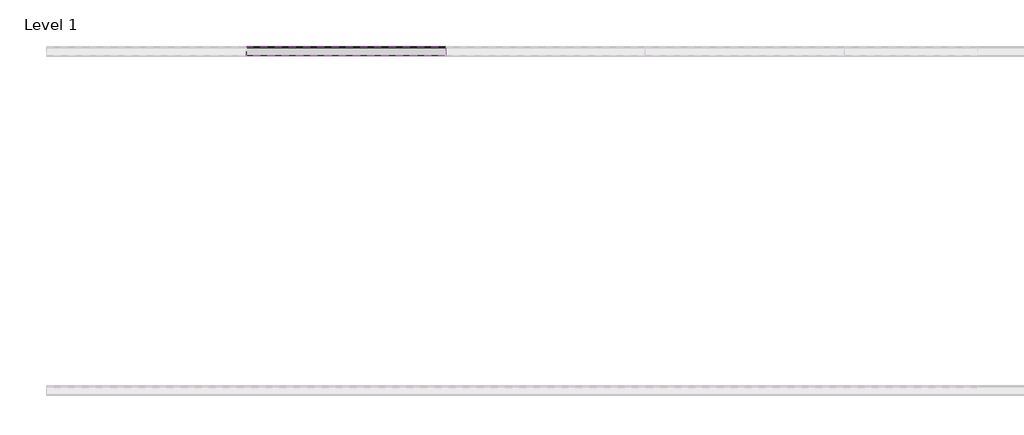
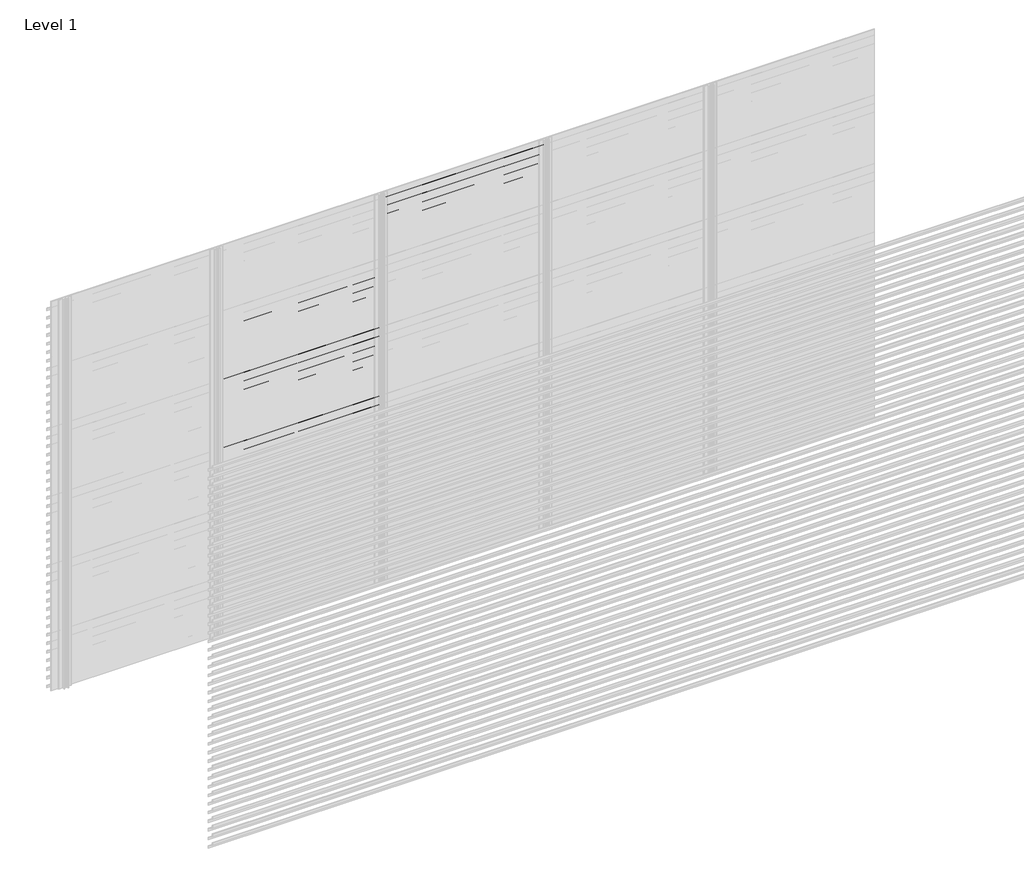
# One storey, part 21 of 540: 43 proxies.
"""IFC4 building model written with IfcOpenShell, lengths in millimetres."""

from ifc_helpers import new_model, si_unit, origin, place, context, project, spatial, faceted_brep, element, save

model = new_model("IFC4")

# Units and contexts
model_context = context("Model", 3, world=origin())
ifc_project = project(units=[si_unit("LENGTHUNIT", "METRE", prefix="MILLI")], contexts=[model_context])

# Site, building, storey
site = spatial("IfcSite", under=ifc_project)
building = spatial("IfcBuilding", under=site)
storey = spatial("IfcBuildingStorey", under=building, Name="Level 1", Elevation=0.0)

# Proxies
placement = place(None, origin())
element("IfcBuildingElementProxy", 1, Name="Wall Sweeps", at=placement, inside=storey, context=model_context, shape_type="Brep", body=[
    faceted_brep([(2866.6208097, 7042.0270068, 2319.5), (2866.6208097, 6988.2770068, 2357.0285629), (2866.6208097, 6988.2770068, 2376.0), (2866.6208097, 6987.0270068, 2376.0), (2866.6208097, 6987.0270068, 2356.3158044), (2866.6208097, 7040.7770068, 2318.7872415), (2866.6208097, 7040.7770068, 2300.2216933), (2866.6208097, 7042.0270068, 2299.5), (1666.6208097, 7042.0270068, 2319.5), (1666.6208097, 7042.0270068, 2299.5), (1666.6208097, 7040.7770068, 2300.2216933), (1666.6208097, 7040.7770068, 2318.7872415), (1666.6208097, 6987.0270068, 2356.3158044), (1666.6208097, 6987.0270068, 2376.0), (1666.6208097, 6988.2770068, 2376.0), (1666.6208097, 6988.2770068, 2357.0285629)], [[[0, 1, 2, 3, 4, 5, 6, 7]], [[8, 9, 10, 11, 12, 13, 14, 15]], [[1, 0, 8, 15]], [[2, 1, 15, 14]], [[4, 3, 13, 12]], [[6, 5, 11, 10]], [[7, 6, 10, 9]], [[0, 7, 9, 8]], [[3, 2, 14, 13]], [[5, 4, 12, 11]]]),
])
element("IfcBuildingElementProxy", 2, Name="Wall Sweeps", at=placement, inside=storey, context=model_context, shape_type="Brep", body=[
    faceted_brep([(2866.6208097, 7042.0270068, 2253.5), (2866.6208097, 6988.2770068, 2291.0285629), (2866.6208097, 6988.2770068, 2310.0), (2866.6208097, 6987.0270068, 2310.0), (2866.6208097, 6987.0270068, 2290.3158044), (2866.6208097, 7040.7770068, 2252.7872415), (2866.6208097, 7040.7770068, 2234.2216933), (2866.6208097, 7042.0270068, 2233.5), (1666.6208097, 7042.0270068, 2253.5), (1666.6208097, 7042.0270068, 2233.5), (1666.6208097, 7040.7770068, 2234.2216933), (1666.6208097, 7040.7770068, 2252.7872415), (1666.6208097, 6987.0270068, 2290.3158044), (1666.6208097, 6987.0270068, 2310.0), (1666.6208097, 6988.2770068, 2310.0), (1666.6208097, 6988.2770068, 2291.0285629)], [[[0, 1, 2, 3, 4, 5, 6, 7]], [[8, 9, 10, 11, 12, 13, 14, 15]], [[1, 0, 8, 15]], [[2, 1, 15, 14]], [[4, 3, 13, 12]], [[6, 5, 11, 10]], [[7, 6, 10, 9]], [[0, 7, 9, 8]], [[3, 2, 14, 13]], [[5, 4, 12, 11]]]),
])
element("IfcBuildingElementProxy", 3, Name="Wall Sweeps", at=placement, inside=storey, context=model_context, shape_type="Brep", body=[
    faceted_brep([(2866.6208097, 7042.0270068, 2187.5), (2866.6208097, 6988.2770068, 2225.0285629), (2866.6208097, 6988.2770068, 2244.0), (2866.6208097, 6987.0270068, 2244.0), (2866.6208097, 6987.0270068, 2224.3158044), (2866.6208097, 7040.7770068, 2186.7872415), (2866.6208097, 7040.7770068, 2168.2216933), (2866.6208097, 7042.0270068, 2167.5), (1666.6208097, 7042.0270068, 2187.5), (1666.6208097, 7042.0270068, 2167.5), (1666.6208097, 7040.7770068, 2168.2216933), (1666.6208097, 7040.7770068, 2186.7872415), (1666.6208097, 6987.0270068, 2224.3158044), (1666.6208097, 6987.0270068, 2244.0), (1666.6208097, 6988.2770068, 2244.0), (1666.6208097, 6988.2770068, 2225.0285629)], [[[0, 1, 2, 3, 4, 5, 6, 7]], [[8, 9, 10, 11, 12, 13, 14, 15]], [[1, 0, 8, 15]], [[2, 1, 15, 14]], [[4, 3, 13, 12]], [[6, 5, 11, 10]], [[7, 6, 10, 9]], [[0, 7, 9, 8]], [[3, 2, 14, 13]], [[5, 4, 12, 11]]]),
])
element("IfcBuildingElementProxy", 4, Name="Wall Sweeps", at=placement, inside=storey, context=model_context, shape_type="Brep", body=[
    faceted_brep([(2866.6208097, 7042.0270068, 2121.5), (2866.6208097, 6988.2770068, 2159.0285629), (2866.6208097, 6988.2770068, 2178.0), (2866.6208097, 6987.0270068, 2178.0), (2866.6208097, 6987.0270068, 2158.3158044), (2866.6208097, 7040.7770068, 2120.7872415), (2866.6208097, 7040.7770068, 2102.2216933), (2866.6208097, 7042.0270068, 2101.5), (1666.6208097, 7042.0270068, 2121.5), (1666.6208097, 7042.0270068, 2101.5), (1666.6208097, 7040.7770068, 2102.2216933), (1666.6208097, 7040.7770068, 2120.7872415), (1666.6208097, 6987.0270068, 2158.3158044), (1666.6208097, 6987.0270068, 2178.0), (1666.6208097, 6988.2770068, 2178.0), (1666.6208097, 6988.2770068, 2159.0285629)], [[[0, 1, 2, 3, 4, 5, 6, 7]], [[8, 9, 10, 11, 12, 13, 14, 15]], [[1, 0, 8, 15]], [[2, 1, 15, 14]], [[4, 3, 13, 12]], [[6, 5, 11, 10]], [[7, 6, 10, 9]], [[0, 7, 9, 8]], [[3, 2, 14, 13]], [[5, 4, 12, 11]]]),
])
element("IfcBuildingElementProxy", 5, Name="Wall Sweeps", at=placement, inside=storey, context=model_context, shape_type="Brep", body=[
    faceted_brep([(2866.6208097, 7042.0270068, 2055.5), (2866.6208097, 6988.2770068, 2093.0285629), (2866.6208097, 6988.2770068, 2112.0), (2866.6208097, 6987.0270068, 2112.0), (2866.6208097, 6987.0270068, 2092.3158044), (2866.6208097, 7040.7770068, 2054.7872415), (2866.6208097, 7040.7770068, 2036.2216933), (2866.6208097, 7042.0270068, 2035.5), (1666.6208097, 7042.0270068, 2055.5), (1666.6208097, 7042.0270068, 2035.5), (1666.6208097, 7040.7770068, 2036.2216933), (1666.6208097, 7040.7770068, 2054.7872415), (1666.6208097, 6987.0270068, 2092.3158044), (1666.6208097, 6987.0270068, 2112.0), (1666.6208097, 6988.2770068, 2112.0), (1666.6208097, 6988.2770068, 2093.0285629)], [[[0, 1, 2, 3, 4, 5, 6, 7]], [[8, 9, 10, 11, 12, 13, 14, 15]], [[1, 0, 8, 15]], [[2, 1, 15, 14]], [[4, 3, 13, 12]], [[6, 5, 11, 10]], [[7, 6, 10, 9]], [[0, 7, 9, 8]], [[3, 2, 14, 13]], [[5, 4, 12, 11]]]),
])
element("IfcBuildingElementProxy", 6, Name="Wall Sweeps", at=placement, inside=storey, context=model_context, shape_type="Brep", body=[
    faceted_brep([(2866.6208097, 7042.0270068, 1989.5), (2866.6208097, 6988.2770068, 2027.0285629), (2866.6208097, 6988.2770068, 2046.0), (2866.6208097, 6987.0270068, 2046.0), (2866.6208097, 6987.0270068, 2026.3158044), (2866.6208097, 7040.7770068, 1988.7872415), (2866.6208097, 7040.7770068, 1970.2216933), (2866.6208097, 7042.0270068, 1969.5), (1666.6208097, 7042.0270068, 1989.5), (1666.6208097, 7042.0270068, 1969.5), (1666.6208097, 7040.7770068, 1970.2216933), (1666.6208097, 7040.7770068, 1988.7872415), (1666.6208097, 6987.0270068, 2026.3158044), (1666.6208097, 6987.0270068, 2046.0), (1666.6208097, 6988.2770068, 2046.0), (1666.6208097, 6988.2770068, 2027.0285629)], [[[0, 1, 2, 3, 4, 5, 6, 7]], [[8, 9, 10, 11, 12, 13, 14, 15]], [[1, 0, 8, 15]], [[2, 1, 15, 14]], [[4, 3, 13, 12]], [[6, 5, 11, 10]], [[7, 6, 10, 9]], [[0, 7, 9, 8]], [[3, 2, 14, 13]], [[5, 4, 12, 11]]]),
])
element("IfcBuildingElementProxy", 7, Name="Wall Sweeps", at=placement, inside=storey, context=model_context, shape_type="Brep", body=[
    faceted_brep([(2866.6208097, 7042.0270068, 1923.5), (2866.6208097, 6988.2770068, 1961.0285629), (2866.6208097, 6988.2770068, 1980.0), (2866.6208097, 6987.0270068, 1980.0), (2866.6208097, 6987.0270068, 1960.3158044), (2866.6208097, 7040.7770068, 1922.7872415), (2866.6208097, 7040.7770068, 1904.2216933), (2866.6208097, 7042.0270068, 1903.5), (1666.6208097, 7042.0270068, 1923.5), (1666.6208097, 7042.0270068, 1903.5), (1666.6208097, 7040.7770068, 1904.2216933), (1666.6208097, 7040.7770068, 1922.7872415), (1666.6208097, 6987.0270068, 1960.3158044), (1666.6208097, 6987.0270068, 1980.0), (1666.6208097, 6988.2770068, 1980.0), (1666.6208097, 6988.2770068, 1961.0285629)], [[[0, 1, 2, 3, 4, 5, 6, 7]], [[8, 9, 10, 11, 12, 13, 14, 15]], [[1, 0, 8, 15]], [[2, 1, 15, 14]], [[4, 3, 13, 12]], [[6, 5, 11, 10]], [[7, 6, 10, 9]], [[0, 7, 9, 8]], [[3, 2, 14, 13]], [[5, 4, 12, 11]]]),
])
element("IfcBuildingElementProxy", 8, Name="Wall Sweeps", at=placement, inside=storey, context=model_context, shape_type="Brep", body=[
    faceted_brep([(2866.6208097, 7042.0270068, 1857.5), (2866.6208097, 6988.2770068, 1895.0285629), (2866.6208097, 6988.2770068, 1914.0), (2866.6208097, 6987.0270068, 1914.0), (2866.6208097, 6987.0270068, 1894.3158044), (2866.6208097, 7040.7770068, 1856.7872415), (2866.6208097, 7040.7770068, 1838.2216933), (2866.6208097, 7042.0270068, 1837.5), (1666.6208097, 7042.0270068, 1857.5), (1666.6208097, 7042.0270068, 1837.5), (1666.6208097, 7040.7770068, 1838.2216933), (1666.6208097, 7040.7770068, 1856.7872415), (1666.6208097, 6987.0270068, 1894.3158044), (1666.6208097, 6987.0270068, 1914.0), (1666.6208097, 6988.2770068, 1914.0), (1666.6208097, 6988.2770068, 1895.0285629)], [[[0, 1, 2, 3, 4, 5, 6, 7]], [[8, 9, 10, 11, 12, 13, 14, 15]], [[1, 0, 8, 15]], [[2, 1, 15, 14]], [[4, 3, 13, 12]], [[6, 5, 11, 10]], [[7, 6, 10, 9]], [[0, 7, 9, 8]], [[3, 2, 14, 13]], [[5, 4, 12, 11]]]),
])
element("IfcBuildingElementProxy", 9, Name="Wall Sweeps", at=placement, inside=storey, context=model_context, shape_type="Brep", body=[
    faceted_brep([(2866.6208097, 7042.0270068, 1791.5), (2866.6208097, 6988.2770068, 1829.0285629), (2866.6208097, 6988.2770068, 1848.0), (2866.6208097, 6987.0270068, 1848.0), (2866.6208097, 6987.0270068, 1828.3158044), (2866.6208097, 7040.7770068, 1790.7872415), (2866.6208097, 7040.7770068, 1772.2216933), (2866.6208097, 7042.0270068, 1771.5), (1666.6208097, 7042.0270068, 1791.5), (1666.6208097, 7042.0270068, 1771.5), (1666.6208097, 7040.7770068, 1772.2216933), (1666.6208097, 7040.7770068, 1790.7872415), (1666.6208097, 6987.0270068, 1828.3158044), (1666.6208097, 6987.0270068, 1848.0), (1666.6208097, 6988.2770068, 1848.0), (1666.6208097, 6988.2770068, 1829.0285629)], [[[0, 1, 2, 3, 4, 5, 6, 7]], [[8, 9, 10, 11, 12, 13, 14, 15]], [[1, 0, 8, 15]], [[2, 1, 15, 14]], [[4, 3, 13, 12]], [[6, 5, 11, 10]], [[7, 6, 10, 9]], [[0, 7, 9, 8]], [[3, 2, 14, 13]], [[5, 4, 12, 11]]]),
])
element("IfcBuildingElementProxy", 10, Name="Wall Sweeps", at=placement, inside=storey, context=model_context, shape_type="Brep", body=[
    faceted_brep([(2866.6208097, 7042.0270068, 1725.5), (2866.6208097, 6988.2770068, 1763.0285629), (2866.6208097, 6988.2770068, 1782.0), (2866.6208097, 6987.0270068, 1782.0), (2866.6208097, 6987.0270068, 1762.3158044), (2866.6208097, 7040.7770068, 1724.7872415), (2866.6208097, 7040.7770068, 1706.2216933), (2866.6208097, 7042.0270068, 1705.5), (1666.6208097, 7042.0270068, 1725.5), (1666.6208097, 7042.0270068, 1705.5), (1666.6208097, 7040.7770068, 1706.2216933), (1666.6208097, 7040.7770068, 1724.7872415), (1666.6208097, 6987.0270068, 1762.3158044), (1666.6208097, 6987.0270068, 1782.0), (1666.6208097, 6988.2770068, 1782.0), (1666.6208097, 6988.2770068, 1763.0285629)], [[[0, 1, 2, 3, 4, 5, 6, 7]], [[8, 9, 10, 11, 12, 13, 14, 15]], [[1, 0, 8, 15]], [[2, 1, 15, 14]], [[4, 3, 13, 12]], [[6, 5, 11, 10]], [[7, 6, 10, 9]], [[0, 7, 9, 8]], [[3, 2, 14, 13]], [[5, 4, 12, 11]]]),
])
element("IfcBuildingElementProxy", 11, Name="Wall Sweeps", at=placement, inside=storey, context=model_context, shape_type="Brep", body=[
    faceted_brep([(2866.6208097, 7042.0270068, 1659.5), (2866.6208097, 6988.2770068, 1697.0285629), (2866.6208097, 6988.2770068, 1716.0), (2866.6208097, 6987.0270068, 1716.0), (2866.6208097, 6987.0270068, 1696.3158044), (2866.6208097, 7040.7770068, 1658.7872415), (2866.6208097, 7040.7770068, 1640.2216933), (2866.6208097, 7042.0270068, 1639.5), (1666.6208097, 7042.0270068, 1659.5), (1666.6208097, 7042.0270068, 1639.5), (1666.6208097, 7040.7770068, 1640.2216933), (1666.6208097, 7040.7770068, 1658.7872415), (1666.6208097, 6987.0270068, 1696.3158044), (1666.6208097, 6987.0270068, 1716.0), (1666.6208097, 6988.2770068, 1716.0), (1666.6208097, 6988.2770068, 1697.0285629)], [[[0, 1, 2, 3, 4, 5, 6, 7]], [[8, 9, 10, 11, 12, 13, 14, 15]], [[1, 0, 8, 15]], [[2, 1, 15, 14]], [[4, 3, 13, 12]], [[6, 5, 11, 10]], [[7, 6, 10, 9]], [[0, 7, 9, 8]], [[3, 2, 14, 13]], [[5, 4, 12, 11]]]),
])
element("IfcBuildingElementProxy", 12, Name="Wall Sweeps", at=placement, inside=storey, context=model_context, shape_type="Brep", body=[
    faceted_brep([(2866.6208097, 7042.0270068, 1593.5), (2866.6208097, 6988.2770068, 1631.0285629), (2866.6208097, 6988.2770068, 1650.0), (2866.6208097, 6987.0270068, 1650.0), (2866.6208097, 6987.0270068, 1630.3158044), (2866.6208097, 7040.7770068, 1592.7872415), (2866.6208097, 7040.7770068, 1574.2216933), (2866.6208097, 7042.0270068, 1573.5), (1666.6208097, 7042.0270068, 1593.5), (1666.6208097, 7042.0270068, 1573.5), (1666.6208097, 7040.7770068, 1574.2216933), (1666.6208097, 7040.7770068, 1592.7872415), (1666.6208097, 6987.0270068, 1630.3158044), (1666.6208097, 6987.0270068, 1650.0), (1666.6208097, 6988.2770068, 1650.0), (1666.6208097, 6988.2770068, 1631.0285629)], [[[0, 1, 2, 3, 4, 5, 6, 7]], [[8, 9, 10, 11, 12, 13, 14, 15]], [[1, 0, 8, 15]], [[2, 1, 15, 14]], [[4, 3, 13, 12]], [[6, 5, 11, 10]], [[7, 6, 10, 9]], [[0, 7, 9, 8]], [[3, 2, 14, 13]], [[5, 4, 12, 11]]]),
])
element("IfcBuildingElementProxy", 13, Name="Wall Sweeps", at=placement, inside=storey, context=model_context, shape_type="Brep", body=[
    faceted_brep([(2866.6208097, 7042.0270068, 1527.5), (2866.6208097, 6988.2770068, 1565.0285629), (2866.6208097, 6988.2770068, 1584.0), (2866.6208097, 6987.0270068, 1584.0), (2866.6208097, 6987.0270068, 1564.3158044), (2866.6208097, 7040.7770068, 1526.7872415), (2866.6208097, 7040.7770068, 1508.2216933), (2866.6208097, 7042.0270068, 1507.5), (1666.6208097, 7042.0270068, 1527.5), (1666.6208097, 7042.0270068, 1507.5), (1666.6208097, 7040.7770068, 1508.2216933), (1666.6208097, 7040.7770068, 1526.7872415), (1666.6208097, 6987.0270068, 1564.3158044), (1666.6208097, 6987.0270068, 1584.0), (1666.6208097, 6988.2770068, 1584.0), (1666.6208097, 6988.2770068, 1565.0285629)], [[[0, 1, 2, 3, 4, 5, 6, 7]], [[8, 9, 10, 11, 12, 13, 14, 15]], [[1, 0, 8, 15]], [[2, 1, 15, 14]], [[4, 3, 13, 12]], [[6, 5, 11, 10]], [[7, 6, 10, 9]], [[0, 7, 9, 8]], [[3, 2, 14, 13]], [[5, 4, 12, 11]]]),
])
element("IfcBuildingElementProxy", 14, Name="Wall Sweeps", at=placement, inside=storey, context=model_context, shape_type="Brep", body=[
    faceted_brep([(2866.6208097, 7042.0270068, 1461.5), (2866.6208097, 6988.2770068, 1499.0285629), (2866.6208097, 6988.2770068, 1518.0), (2866.6208097, 6987.0270068, 1518.0), (2866.6208097, 6987.0270068, 1498.3158044), (2866.6208097, 7040.7770068, 1460.7872415), (2866.6208097, 7040.7770068, 1442.2216933), (2866.6208097, 7042.0270068, 1441.5), (1666.6208097, 7042.0270068, 1461.5), (1666.6208097, 7042.0270068, 1441.5), (1666.6208097, 7040.7770068, 1442.2216933), (1666.6208097, 7040.7770068, 1460.7872415), (1666.6208097, 6987.0270068, 1498.3158044), (1666.6208097, 6987.0270068, 1518.0), (1666.6208097, 6988.2770068, 1518.0), (1666.6208097, 6988.2770068, 1499.0285629)], [[[0, 1, 2, 3, 4, 5, 6, 7]], [[8, 9, 10, 11, 12, 13, 14, 15]], [[1, 0, 8, 15]], [[2, 1, 15, 14]], [[4, 3, 13, 12]], [[6, 5, 11, 10]], [[7, 6, 10, 9]], [[0, 7, 9, 8]], [[3, 2, 14, 13]], [[5, 4, 12, 11]]]),
])
element("IfcBuildingElementProxy", 15, Name="Wall Sweeps", at=placement, inside=storey, context=model_context, shape_type="Brep", body=[
    faceted_brep([(2866.6208097, 7042.0270068, 1395.5), (2866.6208097, 6988.2770068, 1433.0285629), (2866.6208097, 6988.2770068, 1452.0), (2866.6208097, 6987.0270068, 1452.0), (2866.6208097, 6987.0270068, 1432.3158044), (2866.6208097, 7040.7770068, 1394.7872415), (2866.6208097, 7040.7770068, 1376.2216933), (2866.6208097, 7042.0270068, 1375.5), (1666.6208097, 7042.0270068, 1395.5), (1666.6208097, 7042.0270068, 1375.5), (1666.6208097, 7040.7770068, 1376.2216933), (1666.6208097, 7040.7770068, 1394.7872415), (1666.6208097, 6987.0270068, 1432.3158044), (1666.6208097, 6987.0270068, 1452.0), (1666.6208097, 6988.2770068, 1452.0), (1666.6208097, 6988.2770068, 1433.0285629)], [[[0, 1, 2, 3, 4, 5, 6, 7]], [[8, 9, 10, 11, 12, 13, 14, 15]], [[1, 0, 8, 15]], [[2, 1, 15, 14]], [[4, 3, 13, 12]], [[6, 5, 11, 10]], [[7, 6, 10, 9]], [[0, 7, 9, 8]], [[3, 2, 14, 13]], [[5, 4, 12, 11]]]),
])
element("IfcBuildingElementProxy", 16, Name="Wall Sweeps", at=placement, inside=storey, context=model_context, shape_type="Brep", body=[
    faceted_brep([(2866.6208097, 7042.0270068, 1329.5), (2866.6208097, 6988.2770068, 1367.0285629), (2866.6208097, 6988.2770068, 1386.0), (2866.6208097, 6987.0270068, 1386.0), (2866.6208097, 6987.0270068, 1366.3158044), (2866.6208097, 7040.7770068, 1328.7872415), (2866.6208097, 7040.7770068, 1310.2216933), (2866.6208097, 7042.0270068, 1309.5), (1666.6208097, 7042.0270068, 1329.5), (1666.6208097, 7042.0270068, 1309.5), (1666.6208097, 7040.7770068, 1310.2216933), (1666.6208097, 7040.7770068, 1328.7872415), (1666.6208097, 6987.0270068, 1366.3158044), (1666.6208097, 6987.0270068, 1386.0), (1666.6208097, 6988.2770068, 1386.0), (1666.6208097, 6988.2770068, 1367.0285629)], [[[0, 1, 2, 3, 4, 5, 6, 7]], [[8, 9, 10, 11, 12, 13, 14, 15]], [[1, 0, 8, 15]], [[2, 1, 15, 14]], [[4, 3, 13, 12]], [[6, 5, 11, 10]], [[7, 6, 10, 9]], [[0, 7, 9, 8]], [[3, 2, 14, 13]], [[5, 4, 12, 11]]]),
])
element("IfcBuildingElementProxy", 17, Name="Wall Sweeps", at=placement, inside=storey, context=model_context, shape_type="Brep", body=[
    faceted_brep([(2866.6208097, 7042.0270068, 1263.5), (2866.6208097, 6988.2770068, 1301.0285629), (2866.6208097, 6988.2770068, 1320.0), (2866.6208097, 6987.0270068, 1320.0), (2866.6208097, 6987.0270068, 1300.3158044), (2866.6208097, 7040.7770068, 1262.7872415), (2866.6208097, 7040.7770068, 1244.2216933), (2866.6208097, 7042.0270068, 1243.5), (1666.6208097, 7042.0270068, 1263.5), (1666.6208097, 7042.0270068, 1243.5), (1666.6208097, 7040.7770068, 1244.2216933), (1666.6208097, 7040.7770068, 1262.7872415), (1666.6208097, 6987.0270068, 1300.3158044), (1666.6208097, 6987.0270068, 1320.0), (1666.6208097, 6988.2770068, 1320.0), (1666.6208097, 6988.2770068, 1301.0285629)], [[[0, 1, 2, 3, 4, 5, 6, 7]], [[8, 9, 10, 11, 12, 13, 14, 15]], [[1, 0, 8, 15]], [[2, 1, 15, 14]], [[4, 3, 13, 12]], [[6, 5, 11, 10]], [[7, 6, 10, 9]], [[0, 7, 9, 8]], [[3, 2, 14, 13]], [[5, 4, 12, 11]]]),
])
element("IfcBuildingElementProxy", 18, Name="Wall Sweeps", at=placement, inside=storey, context=model_context, shape_type="Brep", body=[
    faceted_brep([(2866.6208097, 7042.0270068, 1197.5), (2866.6208097, 6988.2770068, 1235.0285629), (2866.6208097, 6988.2770068, 1254.0), (2866.6208097, 6987.0270068, 1254.0), (2866.6208097, 6987.0270068, 1234.3158044), (2866.6208097, 7040.7770068, 1196.7872415), (2866.6208097, 7040.7770068, 1178.2216933), (2866.6208097, 7042.0270068, 1177.5), (1666.6208097, 7042.0270068, 1197.5), (1666.6208097, 7042.0270068, 1177.5), (1666.6208097, 7040.7770068, 1178.2216933), (1666.6208097, 7040.7770068, 1196.7872415), (1666.6208097, 6987.0270068, 1234.3158044), (1666.6208097, 6987.0270068, 1254.0), (1666.6208097, 6988.2770068, 1254.0), (1666.6208097, 6988.2770068, 1235.0285629)], [[[0, 1, 2, 3, 4, 5, 6, 7]], [[8, 9, 10, 11, 12, 13, 14, 15]], [[1, 0, 8, 15]], [[2, 1, 15, 14]], [[4, 3, 13, 12]], [[6, 5, 11, 10]], [[7, 6, 10, 9]], [[0, 7, 9, 8]], [[3, 2, 14, 13]], [[5, 4, 12, 11]]]),
])
element("IfcBuildingElementProxy", 19, Name="Wall Sweeps", at=placement, inside=storey, context=model_context, shape_type="Brep", body=[
    faceted_brep([(2866.6208097, 7042.0270068, 1131.5), (2866.6208097, 6988.2770068, 1169.0285629), (2866.6208097, 6988.2770068, 1188.0), (2866.6208097, 6987.0270068, 1188.0), (2866.6208097, 6987.0270068, 1168.3158044), (2866.6208097, 7040.7770068, 1130.7872415), (2866.6208097, 7040.7770068, 1112.2216933), (2866.6208097, 7042.0270068, 1111.5), (1666.6208097, 7042.0270068, 1131.5), (1666.6208097, 7042.0270068, 1111.5), (1666.6208097, 7040.7770068, 1112.2216933), (1666.6208097, 7040.7770068, 1130.7872415), (1666.6208097, 6987.0270068, 1168.3158044), (1666.6208097, 6987.0270068, 1188.0), (1666.6208097, 6988.2770068, 1188.0), (1666.6208097, 6988.2770068, 1169.0285629)], [[[0, 1, 2, 3, 4, 5, 6, 7]], [[8, 9, 10, 11, 12, 13, 14, 15]], [[1, 0, 8, 15]], [[2, 1, 15, 14]], [[4, 3, 13, 12]], [[6, 5, 11, 10]], [[7, 6, 10, 9]], [[0, 7, 9, 8]], [[3, 2, 14, 13]], [[5, 4, 12, 11]]]),
])
element("IfcBuildingElementProxy", 20, Name="Wall Sweeps", at=placement, inside=storey, context=model_context, shape_type="Brep", body=[
    faceted_brep([(2866.6208097, 7042.0270068, 1065.5), (2866.6208097, 6988.2770068, 1103.0285629), (2866.6208097, 6988.2770068, 1122.0), (2866.6208097, 6987.0270068, 1122.0), (2866.6208097, 6987.0270068, 1102.3158044), (2866.6208097, 7040.7770068, 1064.7872415), (2866.6208097, 7040.7770068, 1046.2216933), (2866.6208097, 7042.0270068, 1045.5), (1666.6208097, 7042.0270068, 1065.5), (1666.6208097, 7042.0270068, 1045.5), (1666.6208097, 7040.7770068, 1046.2216933), (1666.6208097, 7040.7770068, 1064.7872415), (1666.6208097, 6987.0270068, 1102.3158044), (1666.6208097, 6987.0270068, 1122.0), (1666.6208097, 6988.2770068, 1122.0), (1666.6208097, 6988.2770068, 1103.0285629)], [[[0, 1, 2, 3, 4, 5, 6, 7]], [[8, 9, 10, 11, 12, 13, 14, 15]], [[1, 0, 8, 15]], [[2, 1, 15, 14]], [[4, 3, 13, 12]], [[6, 5, 11, 10]], [[7, 6, 10, 9]], [[0, 7, 9, 8]], [[3, 2, 14, 13]], [[5, 4, 12, 11]]]),
])
element("IfcBuildingElementProxy", 21, Name="Wall Sweeps", at=placement, inside=storey, context=model_context, shape_type="Brep", body=[
    faceted_brep([(2866.6208097, 7042.0270068, 999.5), (2866.6208097, 6988.2770068, 1037.0285629), (2866.6208097, 6988.2770068, 1056.0), (2866.6208097, 6987.0270068, 1056.0), (2866.6208097, 6987.0270068, 1036.3158044), (2866.6208097, 7040.7770068, 998.7872415), (2866.6208097, 7040.7770068, 980.2216933), (2866.6208097, 7042.0270068, 979.5), (1666.6208097, 7042.0270068, 999.5), (1666.6208097, 7042.0270068, 979.5), (1666.6208097, 7040.7770068, 980.2216933), (1666.6208097, 7040.7770068, 998.7872415), (1666.6208097, 6987.0270068, 1036.3158044), (1666.6208097, 6987.0270068, 1056.0), (1666.6208097, 6988.2770068, 1056.0), (1666.6208097, 6988.2770068, 1037.0285629)], [[[0, 1, 2, 3, 4, 5, 6, 7]], [[8, 9, 10, 11, 12, 13, 14, 15]], [[1, 0, 8, 15]], [[2, 1, 15, 14]], [[4, 3, 13, 12]], [[6, 5, 11, 10]], [[7, 6, 10, 9]], [[0, 7, 9, 8]], [[3, 2, 14, 13]], [[5, 4, 12, 11]]]),
])
element("IfcBuildingElementProxy", 22, Name="Wall Sweeps", at=placement, inside=storey, context=model_context, shape_type="Brep", body=[
    faceted_brep([(2866.6208097, 7042.0270068, 933.5), (2866.6208097, 6988.2770068, 971.0285629), (2866.6208097, 6988.2770068, 990.0), (2866.6208097, 6987.0270068, 990.0), (2866.6208097, 6987.0270068, 970.3158044), (2866.6208097, 7040.7770068, 932.7872415), (2866.6208097, 7040.7770068, 914.2216933), (2866.6208097, 7042.0270068, 913.5), (1666.6208097, 7042.0270068, 933.5), (1666.6208097, 7042.0270068, 913.5), (1666.6208097, 7040.7770068, 914.2216933), (1666.6208097, 7040.7770068, 932.7872415), (1666.6208097, 6987.0270068, 970.3158044), (1666.6208097, 6987.0270068, 990.0), (1666.6208097, 6988.2770068, 990.0), (1666.6208097, 6988.2770068, 971.0285629)], [[[0, 1, 2, 3, 4, 5, 6, 7]], [[8, 9, 10, 11, 12, 13, 14, 15]], [[1, 0, 8, 15]], [[2, 1, 15, 14]], [[4, 3, 13, 12]], [[6, 5, 11, 10]], [[7, 6, 10, 9]], [[0, 7, 9, 8]], [[3, 2, 14, 13]], [[5, 4, 12, 11]]]),
])
element("IfcBuildingElementProxy", 23, Name="Wall Sweeps", at=placement, inside=storey, context=model_context, shape_type="Brep", body=[
    faceted_brep([(2866.6208097, 7042.0270068, 867.5), (2866.6208097, 6988.2770068, 905.0285629), (2866.6208097, 6988.2770068, 924.0), (2866.6208097, 6987.0270068, 924.0), (2866.6208097, 6987.0270068, 904.3158044), (2866.6208097, 7040.7770068, 866.7872415), (2866.6208097, 7040.7770068, 848.2216933), (2866.6208097, 7042.0270068, 847.5), (1666.6208097, 7042.0270068, 867.5), (1666.6208097, 7042.0270068, 847.5), (1666.6208097, 7040.7770068, 848.2216933), (1666.6208097, 7040.7770068, 866.7872415), (1666.6208097, 6987.0270068, 904.3158044), (1666.6208097, 6987.0270068, 924.0), (1666.6208097, 6988.2770068, 924.0), (1666.6208097, 6988.2770068, 905.0285629)], [[[0, 1, 2, 3, 4, 5, 6, 7]], [[8, 9, 10, 11, 12, 13, 14, 15]], [[1, 0, 8, 15]], [[2, 1, 15, 14]], [[4, 3, 13, 12]], [[6, 5, 11, 10]], [[7, 6, 10, 9]], [[0, 7, 9, 8]], [[3, 2, 14, 13]], [[5, 4, 12, 11]]]),
])
element("IfcBuildingElementProxy", 24, Name="Wall Sweeps", at=placement, inside=storey, context=model_context, shape_type="Brep", body=[
    faceted_brep([(2866.6208097, 7042.0270068, 801.5), (2866.6208097, 6988.2770068, 839.0285629), (2866.6208097, 6988.2770068, 858.0), (2866.6208097, 6987.0270068, 858.0), (2866.6208097, 6987.0270068, 838.3158044), (2866.6208097, 7040.7770068, 800.7872415), (2866.6208097, 7040.7770068, 782.2216933), (2866.6208097, 7042.0270068, 781.5), (1666.6208097, 7042.0270068, 801.5), (1666.6208097, 7042.0270068, 781.5), (1666.6208097, 7040.7770068, 782.2216933), (1666.6208097, 7040.7770068, 800.7872415), (1666.6208097, 6987.0270068, 838.3158044), (1666.6208097, 6987.0270068, 858.0), (1666.6208097, 6988.2770068, 858.0), (1666.6208097, 6988.2770068, 839.0285629)], [[[0, 1, 2, 3, 4, 5, 6, 7]], [[8, 9, 10, 11, 12, 13, 14, 15]], [[1, 0, 8, 15]], [[2, 1, 15, 14]], [[4, 3, 13, 12]], [[6, 5, 11, 10]], [[7, 6, 10, 9]], [[0, 7, 9, 8]], [[3, 2, 14, 13]], [[5, 4, 12, 11]]]),
])
element("IfcBuildingElementProxy", 25, Name="Wall Sweeps", at=placement, inside=storey, context=model_context, shape_type="Brep", body=[
    faceted_brep([(2866.6208097, 7042.0270068, 735.5), (2866.6208097, 6988.2770068, 773.0285629), (2866.6208097, 6988.2770068, 792.0), (2866.6208097, 6987.0270068, 792.0), (2866.6208097, 6987.0270068, 772.3158044), (2866.6208097, 7040.7770068, 734.7872415), (2866.6208097, 7040.7770068, 716.2216933), (2866.6208097, 7042.0270068, 715.5), (1666.6208097, 7042.0270068, 735.5), (1666.6208097, 7042.0270068, 715.5), (1666.6208097, 7040.7770068, 716.2216933), (1666.6208097, 7040.7770068, 734.7872415), (1666.6208097, 6987.0270068, 772.3158044), (1666.6208097, 6987.0270068, 792.0), (1666.6208097, 6988.2770068, 792.0), (1666.6208097, 6988.2770068, 773.0285629)], [[[0, 1, 2, 3, 4, 5, 6, 7]], [[8, 9, 10, 11, 12, 13, 14, 15]], [[1, 0, 8, 15]], [[2, 1, 15, 14]], [[4, 3, 13, 12]], [[6, 5, 11, 10]], [[7, 6, 10, 9]], [[0, 7, 9, 8]], [[3, 2, 14, 13]], [[5, 4, 12, 11]]]),
])
element("IfcBuildingElementProxy", 26, Name="Wall Sweeps", at=placement, inside=storey, context=model_context, shape_type="Brep", body=[
    faceted_brep([(2866.6208097, 7042.0270068, 669.5), (2866.6208097, 6988.2770068, 707.0285629), (2866.6208097, 6988.2770068, 726.0), (2866.6208097, 6987.0270068, 726.0), (2866.6208097, 6987.0270068, 706.3158044), (2866.6208097, 7040.7770068, 668.7872415), (2866.6208097, 7040.7770068, 650.2216933), (2866.6208097, 7042.0270068, 649.5), (1666.6208097, 7042.0270068, 669.5), (1666.6208097, 7042.0270068, 649.5), (1666.6208097, 7040.7770068, 650.2216933), (1666.6208097, 7040.7770068, 668.7872415), (1666.6208097, 6987.0270068, 706.3158044), (1666.6208097, 6987.0270068, 726.0), (1666.6208097, 6988.2770068, 726.0), (1666.6208097, 6988.2770068, 707.0285629)], [[[0, 1, 2, 3, 4, 5, 6, 7]], [[8, 9, 10, 11, 12, 13, 14, 15]], [[1, 0, 8, 15]], [[2, 1, 15, 14]], [[4, 3, 13, 12]], [[6, 5, 11, 10]], [[7, 6, 10, 9]], [[0, 7, 9, 8]], [[3, 2, 14, 13]], [[5, 4, 12, 11]]]),
])
element("IfcBuildingElementProxy", 27, Name="Wall Sweeps", at=placement, inside=storey, context=model_context, shape_type="Brep", body=[
    faceted_brep([(2866.6208097, 7042.0270068, 603.5), (2866.6208097, 6988.2770068, 641.0285629), (2866.6208097, 6988.2770068, 660.0), (2866.6208097, 6987.0270068, 660.0), (2866.6208097, 6987.0270068, 640.3158044), (2866.6208097, 7040.7770068, 602.7872415), (2866.6208097, 7040.7770068, 584.2216933), (2866.6208097, 7042.0270068, 583.5), (1666.6208097, 7042.0270068, 603.5), (1666.6208097, 7042.0270068, 583.5), (1666.6208097, 7040.7770068, 584.2216933), (1666.6208097, 7040.7770068, 602.7872415), (1666.6208097, 6987.0270068, 640.3158044), (1666.6208097, 6987.0270068, 660.0), (1666.6208097, 6988.2770068, 660.0), (1666.6208097, 6988.2770068, 641.0285629)], [[[0, 1, 2, 3, 4, 5, 6, 7]], [[8, 9, 10, 11, 12, 13, 14, 15]], [[1, 0, 8, 15]], [[2, 1, 15, 14]], [[4, 3, 13, 12]], [[6, 5, 11, 10]], [[7, 6, 10, 9]], [[0, 7, 9, 8]], [[3, 2, 14, 13]], [[5, 4, 12, 11]]]),
])
element("IfcBuildingElementProxy", 28, Name="Wall Sweeps", at=placement, inside=storey, context=model_context, shape_type="Brep", body=[
    faceted_brep([(2866.6208097, 7042.0270068, 537.5), (2866.6208097, 6988.2770068, 575.0285629), (2866.6208097, 6988.2770068, 594.0), (2866.6208097, 6987.0270068, 594.0), (2866.6208097, 6987.0270068, 574.3158044), (2866.6208097, 7040.7770068, 536.7872415), (2866.6208097, 7040.7770068, 518.2216933), (2866.6208097, 7042.0270068, 517.5), (1666.6208097, 7042.0270068, 537.5), (1666.6208097, 7042.0270068, 517.5), (1666.6208097, 7040.7770068, 518.2216933), (1666.6208097, 7040.7770068, 536.7872415), (1666.6208097, 6987.0270068, 574.3158044), (1666.6208097, 6987.0270068, 594.0), (1666.6208097, 6988.2770068, 594.0), (1666.6208097, 6988.2770068, 575.0285629)], [[[0, 1, 2, 3, 4, 5, 6, 7]], [[8, 9, 10, 11, 12, 13, 14, 15]], [[1, 0, 8, 15]], [[2, 1, 15, 14]], [[4, 3, 13, 12]], [[6, 5, 11, 10]], [[7, 6, 10, 9]], [[0, 7, 9, 8]], [[3, 2, 14, 13]], [[5, 4, 12, 11]]]),
])
element("IfcBuildingElementProxy", 29, Name="Wall Sweeps", at=placement, inside=storey, context=model_context, shape_type="Brep", body=[
    faceted_brep([(2866.6208097, 7042.0270068, 471.5), (2866.6208097, 6988.2770068, 509.0285629), (2866.6208097, 6988.2770068, 528.0), (2866.6208097, 6987.0270068, 528.0), (2866.6208097, 6987.0270068, 508.3158044), (2866.6208097, 7040.7770068, 470.7872415), (2866.6208097, 7040.7770068, 452.2216933), (2866.6208097, 7042.0270068, 451.5), (1666.6208097, 7042.0270068, 471.5), (1666.6208097, 7042.0270068, 451.5), (1666.6208097, 7040.7770068, 452.2216933), (1666.6208097, 7040.7770068, 470.7872415), (1666.6208097, 6987.0270068, 508.3158044), (1666.6208097, 6987.0270068, 528.0), (1666.6208097, 6988.2770068, 528.0), (1666.6208097, 6988.2770068, 509.0285629)], [[[0, 1, 2, 3, 4, 5, 6, 7]], [[8, 9, 10, 11, 12, 13, 14, 15]], [[1, 0, 8, 15]], [[2, 1, 15, 14]], [[4, 3, 13, 12]], [[6, 5, 11, 10]], [[7, 6, 10, 9]], [[0, 7, 9, 8]], [[3, 2, 14, 13]], [[5, 4, 12, 11]]]),
])
element("IfcBuildingElementProxy", 30, Name="Wall Sweeps", at=placement, inside=storey, context=model_context, shape_type="Brep", body=[
    faceted_brep([(2866.6208097, 7042.0270068, 405.5), (2866.6208097, 6988.2770068, 443.0285629), (2866.6208097, 6988.2770068, 462.0), (2866.6208097, 6987.0270068, 462.0), (2866.6208097, 6987.0270068, 442.3158044), (2866.6208097, 7040.7770068, 404.7872415), (2866.6208097, 7040.7770068, 386.2216933), (2866.6208097, 7042.0270068, 385.5), (1666.6208097, 7042.0270068, 405.5), (1666.6208097, 7042.0270068, 385.5), (1666.6208097, 7040.7770068, 386.2216933), (1666.6208097, 7040.7770068, 404.7872415), (1666.6208097, 6987.0270068, 442.3158044), (1666.6208097, 6987.0270068, 462.0), (1666.6208097, 6988.2770068, 462.0), (1666.6208097, 6988.2770068, 443.0285629)], [[[0, 1, 2, 3, 4, 5, 6, 7]], [[8, 9, 10, 11, 12, 13, 14, 15]], [[1, 0, 8, 15]], [[2, 1, 15, 14]], [[4, 3, 13, 12]], [[6, 5, 11, 10]], [[7, 6, 10, 9]], [[0, 7, 9, 8]], [[3, 2, 14, 13]], [[5, 4, 12, 11]]]),
])
element("IfcBuildingElementProxy", 31, Name="Wall Sweeps", at=placement, inside=storey, context=model_context, shape_type="Brep", body=[
    faceted_brep([(2866.6208097, 7042.0270068, 339.5), (2866.6208097, 6988.2770068, 377.0285629), (2866.6208097, 6988.2770068, 396.0), (2866.6208097, 6987.0270068, 396.0), (2866.6208097, 6987.0270068, 376.3158044), (2866.6208097, 7040.7770068, 338.7872415), (2866.6208097, 7040.7770068, 320.2216933), (2866.6208097, 7042.0270068, 319.5), (1666.6208097, 7042.0270068, 339.5), (1666.6208097, 7042.0270068, 319.5), (1666.6208097, 7040.7770068, 320.2216933), (1666.6208097, 7040.7770068, 338.7872415), (1666.6208097, 6987.0270068, 376.3158044), (1666.6208097, 6987.0270068, 396.0), (1666.6208097, 6988.2770068, 396.0), (1666.6208097, 6988.2770068, 377.0285629)], [[[0, 1, 2, 3, 4, 5, 6, 7]], [[8, 9, 10, 11, 12, 13, 14, 15]], [[1, 0, 8, 15]], [[2, 1, 15, 14]], [[4, 3, 13, 12]], [[6, 5, 11, 10]], [[7, 6, 10, 9]], [[0, 7, 9, 8]], [[3, 2, 14, 13]], [[5, 4, 12, 11]]]),
])
element("IfcBuildingElementProxy", 32, Name="Wall Sweeps", at=placement, inside=storey, context=model_context, shape_type="Brep", body=[
    faceted_brep([(2866.6208097, 7042.0270068, 273.5), (2866.6208097, 6988.2770068, 311.0285629), (2866.6208097, 6988.2770068, 330.0), (2866.6208097, 6987.0270068, 330.0), (2866.6208097, 6987.0270068, 310.3158044), (2866.6208097, 7040.7770068, 272.7872415), (2866.6208097, 7040.7770068, 254.2216933), (2866.6208097, 7042.0270068, 253.5), (1666.6208097, 7042.0270068, 273.5), (1666.6208097, 7042.0270068, 253.5), (1666.6208097, 7040.7770068, 254.2216933), (1666.6208097, 7040.7770068, 272.7872415), (1666.6208097, 6987.0270068, 310.3158044), (1666.6208097, 6987.0270068, 330.0), (1666.6208097, 6988.2770068, 330.0), (1666.6208097, 6988.2770068, 311.0285629)], [[[0, 1, 2, 3, 4, 5, 6, 7]], [[8, 9, 10, 11, 12, 13, 14, 15]], [[1, 0, 8, 15]], [[2, 1, 15, 14]], [[4, 3, 13, 12]], [[6, 5, 11, 10]], [[7, 6, 10, 9]], [[0, 7, 9, 8]], [[3, 2, 14, 13]], [[5, 4, 12, 11]]]),
])
element("IfcBuildingElementProxy", 33, Name="Wall Sweeps", at=placement, inside=storey, context=model_context, shape_type="Brep", body=[
    faceted_brep([(2866.6208097, 7042.0270068, 207.5), (2866.6208097, 6988.2770068, 245.0285629), (2866.6208097, 6988.2770068, 264.0), (2866.6208097, 6987.0270068, 264.0), (2866.6208097, 6987.0270068, 244.3158044), (2866.6208097, 7040.7770068, 206.7872415), (2866.6208097, 7040.7770068, 188.2216933), (2866.6208097, 7042.0270068, 187.5), (1666.6208097, 7042.0270068, 207.5), (1666.6208097, 7042.0270068, 187.5), (1666.6208097, 7040.7770068, 188.2216933), (1666.6208097, 7040.7770068, 206.7872415), (1666.6208097, 6987.0270068, 244.3158044), (1666.6208097, 6987.0270068, 264.0), (1666.6208097, 6988.2770068, 264.0), (1666.6208097, 6988.2770068, 245.0285629)], [[[0, 1, 2, 3, 4, 5, 6, 7]], [[8, 9, 10, 11, 12, 13, 14, 15]], [[1, 0, 8, 15]], [[2, 1, 15, 14]], [[4, 3, 13, 12]], [[6, 5, 11, 10]], [[7, 6, 10, 9]], [[0, 7, 9, 8]], [[3, 2, 14, 13]], [[5, 4, 12, 11]]]),
])
element("IfcBuildingElementProxy", 34, Name="Wall Sweeps", at=placement, inside=storey, context=model_context, shape_type="Brep", body=[
    faceted_brep([(2866.6208097, 7042.0270068, 141.5), (2866.6208097, 6988.2770068, 179.0285629), (2866.6208097, 6988.2770068, 198.0), (2866.6208097, 6987.0270068, 198.0), (2866.6208097, 6987.0270068, 178.3158044), (2866.6208097, 7040.7770068, 140.7872415), (2866.6208097, 7040.7770068, 122.2216933), (2866.6208097, 7042.0270068, 121.5), (1666.6208097, 7042.0270068, 141.5), (1666.6208097, 7042.0270068, 121.5), (1666.6208097, 7040.7770068, 122.2216933), (1666.6208097, 7040.7770068, 140.7872415), (1666.6208097, 6987.0270068, 178.3158044), (1666.6208097, 6987.0270068, 198.0), (1666.6208097, 6988.2770068, 198.0), (1666.6208097, 6988.2770068, 179.0285629)], [[[0, 1, 2, 3, 4, 5, 6, 7]], [[8, 9, 10, 11, 12, 13, 14, 15]], [[1, 0, 8, 15]], [[2, 1, 15, 14]], [[4, 3, 13, 12]], [[6, 5, 11, 10]], [[7, 6, 10, 9]], [[0, 7, 9, 8]], [[3, 2, 14, 13]], [[5, 4, 12, 11]]]),
])
element("IfcBuildingElementProxy", 35, Name="Wall Sweeps", at=placement, inside=storey, context=model_context, shape_type="Brep", body=[
    faceted_brep([(2866.6208097, 7042.0270068, 75.5), (2866.6208097, 6988.2770068, 113.0285629), (2866.6208097, 6988.2770068, 132.0), (2866.6208097, 6987.0270068, 132.0), (2866.6208097, 6987.0270068, 112.3158044), (2866.6208097, 7040.7770068, 74.7872415), (2866.6208097, 7040.7770068, 56.2216933), (2866.6208097, 7042.0270068, 55.5), (1666.6208097, 7042.0270068, 75.5), (1666.6208097, 7042.0270068, 55.5), (1666.6208097, 7040.7770068, 56.2216933), (1666.6208097, 7040.7770068, 74.7872415), (1666.6208097, 6987.0270068, 112.3158044), (1666.6208097, 6987.0270068, 132.0), (1666.6208097, 6988.2770068, 132.0), (1666.6208097, 6988.2770068, 113.0285629)], [[[0, 1, 2, 3, 4, 5, 6, 7]], [[8, 9, 10, 11, 12, 13, 14, 15]], [[1, 0, 8, 15]], [[2, 1, 15, 14]], [[4, 3, 13, 12]], [[6, 5, 11, 10]], [[7, 6, 10, 9]], [[0, 7, 9, 8]], [[3, 2, 14, 13]], [[5, 4, 12, 11]]]),
])
element("IfcBuildingElementProxy", 36, Name="Wall Sweeps", at=placement, inside=storey, context=model_context, shape_type="Brep", body=[
    faceted_brep([(2866.6208097, 7042.0270068, 9.5), (2866.6208097, 6988.2770068, 47.0285629), (2866.6208097, 6988.2770068, 66.0), (2866.6208097, 6987.0270068, 66.0), (2866.6208097, 6987.0270068, 46.3158044), (2866.6208097, 7040.7770068, 8.7872415), (2866.6208097, 7040.7770068, -9.7783067), (2866.6208097, 7042.0270068, -10.5), (1666.6208097, 7042.0270068, 9.5), (1666.6208097, 7042.0270068, -10.5), (1666.6208097, 7040.7770068, -9.7783067), (1666.6208097, 7040.7770068, 8.7872415), (1666.6208097, 6987.0270068, 46.3158044), (1666.6208097, 6987.0270068, 66.0), (1666.6208097, 6988.2770068, 66.0), (1666.6208097, 6988.2770068, 47.0285629)], [[[0, 1, 2, 3, 4, 5, 6, 7]], [[8, 9, 10, 11, 12, 13, 14, 15]], [[1, 0, 8, 15]], [[2, 1, 15, 14]], [[4, 3, 13, 12]], [[6, 5, 11, 10]], [[7, 6, 10, 9]], [[0, 7, 9, 8]], [[3, 2, 14, 13]], [[5, 4, 12, 11]]]),
])
element("IfcBuildingElementProxy", 37, Name="Wall Sweeps", at=placement, inside=storey, context=model_context, shape_type="Brep", body=[
    faceted_brep([(4066.6208097, 7042.0270068, 2913.5), (4066.6208097, 6988.2770068, 2951.0285629), (4066.6208097, 6988.2770068, 2970.0), (4066.6208097, 6987.0270068, 2970.0), (4066.6208097, 6987.0270068, 2950.3158044), (4066.6208097, 7040.7770068, 2912.7872415), (4066.6208097, 7040.7770068, 2894.2216933), (4066.6208097, 7042.0270068, 2893.5), (2866.6208097, 7042.0270068, 2913.5), (2866.6208097, 7042.0270068, 2893.5), (2866.6208097, 7040.7770068, 2894.2216933), (2866.6208097, 7040.7770068, 2912.7872415), (2866.6208097, 6987.0270068, 2950.3158044), (2866.6208097, 6987.0270068, 2970.0), (2866.6208097, 6988.2770068, 2970.0), (2866.6208097, 6988.2770068, 2951.0285629)], [[[0, 1, 2, 3, 4, 5, 6, 7]], [[8, 9, 10, 11, 12, 13, 14, 15]], [[1, 0, 8, 15]], [[2, 1, 15, 14]], [[4, 3, 13, 12]], [[6, 5, 11, 10]], [[7, 6, 10, 9]], [[0, 7, 9, 8]], [[3, 2, 14, 13]], [[5, 4, 12, 11]]]),
])
element("IfcBuildingElementProxy", 38, Name="Wall Sweeps", at=placement, inside=storey, context=model_context, shape_type="Brep", body=[
    faceted_brep([(4066.6208097, 7042.0270068, 2847.5), (4066.6208097, 6988.2770068, 2885.0285629), (4066.6208097, 6988.2770068, 2904.0), (4066.6208097, 6987.0270068, 2904.0), (4066.6208097, 6987.0270068, 2884.3158044), (4066.6208097, 7040.7770068, 2846.7872415), (4066.6208097, 7040.7770068, 2828.2216933), (4066.6208097, 7042.0270068, 2827.5), (2866.6208097, 7042.0270068, 2847.5), (2866.6208097, 7042.0270068, 2827.5), (2866.6208097, 7040.7770068, 2828.2216933), (2866.6208097, 7040.7770068, 2846.7872415), (2866.6208097, 6987.0270068, 2884.3158044), (2866.6208097, 6987.0270068, 2904.0), (2866.6208097, 6988.2770068, 2904.0), (2866.6208097, 6988.2770068, 2885.0285629)], [[[0, 1, 2, 3, 4, 5, 6, 7]], [[8, 9, 10, 11, 12, 13, 14, 15]], [[1, 0, 8, 15]], [[2, 1, 15, 14]], [[4, 3, 13, 12]], [[6, 5, 11, 10]], [[7, 6, 10, 9]], [[0, 7, 9, 8]], [[3, 2, 14, 13]], [[5, 4, 12, 11]]]),
])
element("IfcBuildingElementProxy", 39, Name="Wall Sweeps", at=placement, inside=storey, context=model_context, shape_type="Brep", body=[
    faceted_brep([(4066.6208097, 7042.0270068, 2781.5), (4066.6208097, 6988.2770068, 2819.0285629), (4066.6208097, 6988.2770068, 2838.0), (4066.6208097, 6987.0270068, 2838.0), (4066.6208097, 6987.0270068, 2818.3158044), (4066.6208097, 7040.7770068, 2780.7872415), (4066.6208097, 7040.7770068, 2762.2216933), (4066.6208097, 7042.0270068, 2761.5), (2866.6208097, 7042.0270068, 2781.5), (2866.6208097, 7042.0270068, 2761.5), (2866.6208097, 7040.7770068, 2762.2216933), (2866.6208097, 7040.7770068, 2780.7872415), (2866.6208097, 6987.0270068, 2818.3158044), (2866.6208097, 6987.0270068, 2838.0), (2866.6208097, 6988.2770068, 2838.0), (2866.6208097, 6988.2770068, 2819.0285629)], [[[0, 1, 2, 3, 4, 5, 6, 7]], [[8, 9, 10, 11, 12, 13, 14, 15]], [[1, 0, 8, 15]], [[2, 1, 15, 14]], [[4, 3, 13, 12]], [[6, 5, 11, 10]], [[7, 6, 10, 9]], [[0, 7, 9, 8]], [[3, 2, 14, 13]], [[5, 4, 12, 11]]]),
])
element("IfcBuildingElementProxy", 40, Name="Wall Sweeps", at=placement, inside=storey, context=model_context, shape_type="Brep", body=[
    faceted_brep([(4066.6208097, 7042.0270068, 2715.5), (4066.6208097, 6988.2770068, 2753.0285629), (4066.6208097, 6988.2770068, 2772.0), (4066.6208097, 6987.0270068, 2772.0), (4066.6208097, 6987.0270068, 2752.3158044), (4066.6208097, 7040.7770068, 2714.7872415), (4066.6208097, 7040.7770068, 2696.2216933), (4066.6208097, 7042.0270068, 2695.5), (2866.6208097, 7042.0270068, 2715.5), (2866.6208097, 7042.0270068, 2695.5), (2866.6208097, 7040.7770068, 2696.2216933), (2866.6208097, 7040.7770068, 2714.7872415), (2866.6208097, 6987.0270068, 2752.3158044), (2866.6208097, 6987.0270068, 2772.0), (2866.6208097, 6988.2770068, 2772.0), (2866.6208097, 6988.2770068, 2753.0285629)], [[[0, 1, 2, 3, 4, 5, 6, 7]], [[8, 9, 10, 11, 12, 13, 14, 15]], [[1, 0, 8, 15]], [[2, 1, 15, 14]], [[4, 3, 13, 12]], [[6, 5, 11, 10]], [[7, 6, 10, 9]], [[0, 7, 9, 8]], [[3, 2, 14, 13]], [[5, 4, 12, 11]]]),
])
element("IfcBuildingElementProxy", 41, Name="Wall Sweeps", at=placement, inside=storey, context=model_context, shape_type="Brep", body=[
    faceted_brep([(4066.6208097, 7042.0270068, 2649.5), (4066.6208097, 6988.2770068, 2687.0285629), (4066.6208097, 6988.2770068, 2706.0), (4066.6208097, 6987.0270068, 2706.0), (4066.6208097, 6987.0270068, 2686.3158044), (4066.6208097, 7040.7770068, 2648.7872415), (4066.6208097, 7040.7770068, 2630.2216933), (4066.6208097, 7042.0270068, 2629.5), (2866.6208097, 7042.0270068, 2649.5), (2866.6208097, 7042.0270068, 2629.5), (2866.6208097, 7040.7770068, 2630.2216933), (2866.6208097, 7040.7770068, 2648.7872415), (2866.6208097, 6987.0270068, 2686.3158044), (2866.6208097, 6987.0270068, 2706.0), (2866.6208097, 6988.2770068, 2706.0), (2866.6208097, 6988.2770068, 2687.0285629)], [[[0, 1, 2, 3, 4, 5, 6, 7]], [[8, 9, 10, 11, 12, 13, 14, 15]], [[1, 0, 8, 15]], [[2, 1, 15, 14]], [[4, 3, 13, 12]], [[6, 5, 11, 10]], [[7, 6, 10, 9]], [[0, 7, 9, 8]], [[3, 2, 14, 13]], [[5, 4, 12, 11]]]),
])
element("IfcBuildingElementProxy", 42, Name="Wall Sweeps", at=placement, inside=storey, context=model_context, shape_type="Brep", body=[
    faceted_brep([(4066.6208097, 7042.0270068, 2583.5), (4066.6208097, 6988.2770068, 2621.0285629), (4066.6208097, 6988.2770068, 2640.0), (4066.6208097, 6987.0270068, 2640.0), (4066.6208097, 6987.0270068, 2620.3158044), (4066.6208097, 7040.7770068, 2582.7872415), (4066.6208097, 7040.7770068, 2564.2216933), (4066.6208097, 7042.0270068, 2563.5), (2866.6208097, 7042.0270068, 2583.5), (2866.6208097, 7042.0270068, 2563.5), (2866.6208097, 7040.7770068, 2564.2216933), (2866.6208097, 7040.7770068, 2582.7872415), (2866.6208097, 6987.0270068, 2620.3158044), (2866.6208097, 6987.0270068, 2640.0), (2866.6208097, 6988.2770068, 2640.0), (2866.6208097, 6988.2770068, 2621.0285629)], [[[0, 1, 2, 3, 4, 5, 6, 7]], [[8, 9, 10, 11, 12, 13, 14, 15]], [[1, 0, 8, 15]], [[2, 1, 15, 14]], [[4, 3, 13, 12]], [[6, 5, 11, 10]], [[7, 6, 10, 9]], [[0, 7, 9, 8]], [[3, 2, 14, 13]], [[5, 4, 12, 11]]]),
])
element("IfcBuildingElementProxy", 43, Name="Wall Sweeps", at=placement, inside=storey, context=model_context, shape_type="Brep", body=[
    faceted_brep([(4066.6208097, 7042.0270068, 2517.5), (4066.6208097, 6988.2770068, 2555.0285629), (4066.6208097, 6988.2770068, 2574.0), (4066.6208097, 6987.0270068, 2574.0), (4066.6208097, 6987.0270068, 2554.3158044), (4066.6208097, 7040.7770068, 2516.7872415), (4066.6208097, 7040.7770068, 2498.2216933), (4066.6208097, 7042.0270068, 2497.5), (2866.6208097, 7042.0270068, 2517.5), (2866.6208097, 7042.0270068, 2497.5), (2866.6208097, 7040.7770068, 2498.2216933), (2866.6208097, 7040.7770068, 2516.7872415), (2866.6208097, 6987.0270068, 2554.3158044), (2866.6208097, 6987.0270068, 2574.0), (2866.6208097, 6988.2770068, 2574.0), (2866.6208097, 6988.2770068, 2555.0285629)], [[[0, 1, 2, 3, 4, 5, 6, 7]], [[8, 9, 10, 11, 12, 13, 14, 15]], [[1, 0, 8, 15]], [[2, 1, 15, 14]], [[4, 3, 13, 12]], [[6, 5, 11, 10]], [[7, 6, 10, 9]], [[0, 7, 9, 8]], [[3, 2, 14, 13]], [[5, 4, 12, 11]]]),
])

save(model, "model.ifc")
